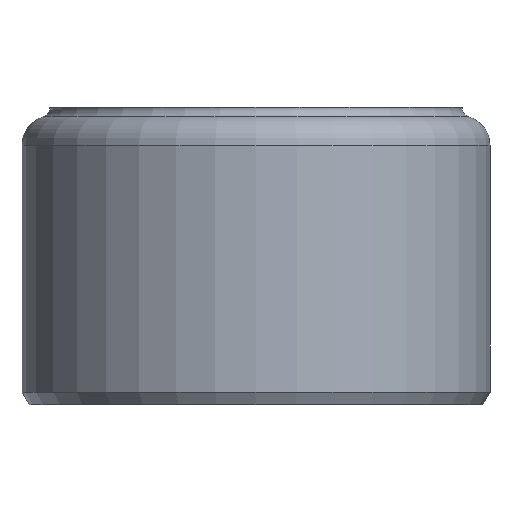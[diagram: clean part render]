
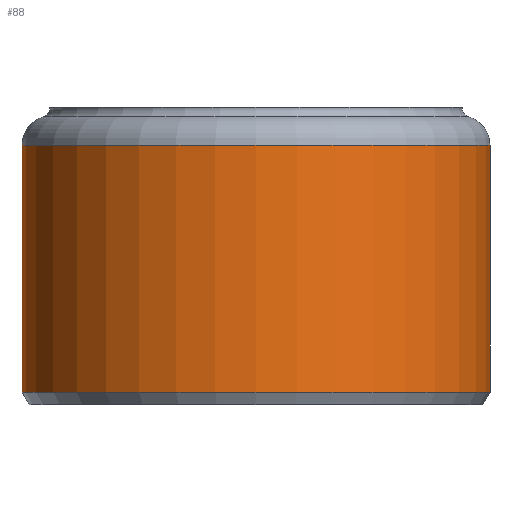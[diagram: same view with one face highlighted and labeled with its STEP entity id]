
A CAD part, front view. The second image highlights one B-rep face of the part: STEP entity #88.
In plain terms, the highlighted cylindrical face has radius 55 mm (diameter 110 mm), a full revolution.
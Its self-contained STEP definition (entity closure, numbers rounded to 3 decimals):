
#88 = ADVANCED_FACE( '', ( #193, #194 ), #195, .T. );
#193 = FACE_OUTER_BOUND( '', #296, .T. );
#194 = FACE_OUTER_BOUND( '', #297, .T. );
#195 = CYLINDRICAL_SURFACE( '', #298, 55. );
#296 = EDGE_LOOP( '', ( #433 ) );
#297 = EDGE_LOOP( '', ( #434 ) );
#298 = AXIS2_PLACEMENT_3D( '', #435, #436, #437 );
#433 = ORIENTED_EDGE( '', *, *, #499, .T. );
#434 = ORIENTED_EDGE( '', *, *, #482, .F. );
#435 = CARTESIAN_POINT( '', ( 0., 0., 0. ) );
#436 = DIRECTION( '', ( 0., 0., 1. ) );
#437 = DIRECTION( '', ( -1., 0., 0. ) );
#482 = EDGE_CURVE( '', #545, #545, #546, .T. );
#499 = EDGE_CURVE( '', #569, #569, #570, .T. );
#545 = VERTEX_POINT( '', #617 );
#546 = CIRCLE( '', #618, 55. );
#569 = VERTEX_POINT( '', #641 );
#570 = CIRCLE( '', #642, 55. );
#617 = CARTESIAN_POINT( '', ( -55., 0., 3. ) );
#618 = AXIS2_PLACEMENT_3D( '', #693, #694, #695 );
#641 = CARTESIAN_POINT( '', ( -55., 0., 61. ) );
#642 = AXIS2_PLACEMENT_3D( '', #714, #715, #716 );
#693 = CARTESIAN_POINT( '', ( 0., 0., 3. ) );
#694 = DIRECTION( '', ( 0., 0., -1. ) );
#695 = DIRECTION( '', ( -1., 0., 0. ) );
#714 = CARTESIAN_POINT( '', ( 0., 0., 61. ) );
#715 = DIRECTION( '', ( 0., 0., -1. ) );
#716 = DIRECTION( '', ( -1., 0., 0. ) );
